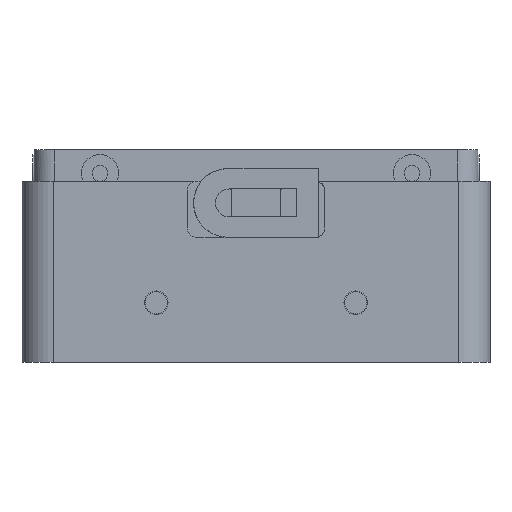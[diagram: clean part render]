
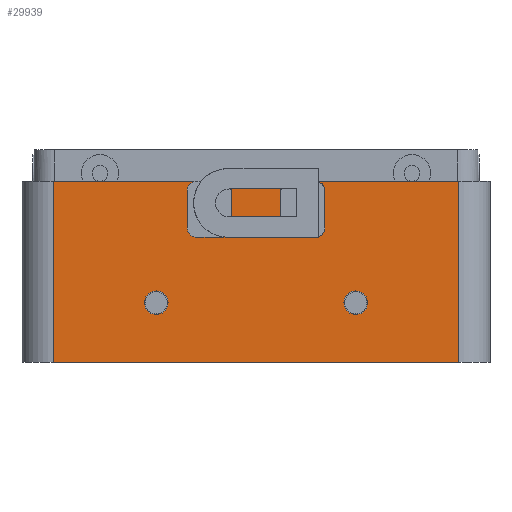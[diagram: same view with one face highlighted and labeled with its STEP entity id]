
A CAD part, left-side view. The second image highlights one B-rep face of the part: STEP entity #29939.
In plain terms, the highlighted planar face has unit normal (-1, 0, 0).
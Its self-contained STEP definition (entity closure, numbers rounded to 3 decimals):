
#27550=CARTESIAN_POINT('Vertex',(-94.,35.8,19.)) ;
#27553=CARTESIAN_POINT('Axis2P3D Location',(-94.,32.,19.)) ;
#27557=CARTESIAN_POINT('Vertex',(-94.,28.2,19.)) ;
#27572=CARTESIAN_POINT('Axis2P3D Location',(-94.,32.,19.)) ;
#27588=CARTESIAN_POINT('Vertex',(-94.,-28.2,19.)) ;
#27591=CARTESIAN_POINT('Axis2P3D Location',(-94.,-32.,19.)) ;
#27595=CARTESIAN_POINT('Vertex',(-94.,-35.8,19.)) ;
#27610=CARTESIAN_POINT('Axis2P3D Location',(-94.,-32.,19.)) ;
#27647=CARTESIAN_POINT('Vertex',(-94.,-65.,0.)) ;
#27650=CARTESIAN_POINT('Line Origine',(-94.,0.,0.)) ;
#27654=CARTESIAN_POINT('Vertex',(-94.,65.,0.)) ;
#27804=CARTESIAN_POINT('Vertex',(-94.,22.,55.)) ;
#27807=CARTESIAN_POINT('Line Origine',(-94.,22.,49.)) ;
#27811=CARTESIAN_POINT('Vertex',(-94.,22.,43.)) ;
#27833=CARTESIAN_POINT('Axis2P3D Location',(-94.,19.,43.)) ;
#27837=CARTESIAN_POINT('Vertex',(-94.,19.,40.)) ;
#27859=CARTESIAN_POINT('Line Origine',(-94.,15.,40.)) ;
#27863=CARTESIAN_POINT('Vertex',(-94.,11.,40.)) ;
#27892=CARTESIAN_POINT('Axis2P3D Location',(-94.,11.,43.)) ;
#27896=CARTESIAN_POINT('Vertex',(-94.,8.,43.)) ;
#27926=CARTESIAN_POINT('Line Origine',(-94.,8.,49.)) ;
#27930=CARTESIAN_POINT('Vertex',(-94.,8.,55.)) ;
#28039=CARTESIAN_POINT('Vertex',(-94.,-8.,55.)) ;
#28042=CARTESIAN_POINT('Line Origine',(-94.,-8.,49.)) ;
#28046=CARTESIAN_POINT('Vertex',(-94.,-8.,43.)) ;
#29395=CARTESIAN_POINT('Vertex',(-94.,19.,58.)) ;
#29398=CARTESIAN_POINT('Axis2P3D Location',(-94.,19.,55.)) ;
#29415=CARTESIAN_POINT('Line Origine',(-94.,65.,29.)) ;
#29419=CARTESIAN_POINT('Vertex',(-94.,65.,58.)) ;
#29728=CARTESIAN_POINT('Line Origine',(-94.,-65.,29.)) ;
#29732=CARTESIAN_POINT('Vertex',(-94.,-65.,58.)) ;
#29840=CARTESIAN_POINT('Axis2P3D Location',(-94.,65.,0.)) ;
#29845=CARTESIAN_POINT('Line Origine',(-94.,0.,58.)) ;
#29849=CARTESIAN_POINT('Vertex',(-94.,11.,58.)) ;
#29851=CARTESIAN_POINT('Vertex',(-94.,-11.,58.)) ;
#29854=CARTESIAN_POINT('Axis2P3D Location',(-94.,11.,55.)) ;
#29859=CARTESIAN_POINT('Line Origine',(-94.,42.,58.)) ;
#29864=CARTESIAN_POINT('Line Origine',(-94.,-42.,58.)) ;
#29868=CARTESIAN_POINT('Vertex',(-94.,-19.,58.)) ;
#29871=CARTESIAN_POINT('Axis2P3D Location',(-94.,-19.,55.)) ;
#29875=CARTESIAN_POINT('Vertex',(-94.,-22.,55.)) ;
#29878=CARTESIAN_POINT('Line Origine',(-94.,-22.,49.)) ;
#29882=CARTESIAN_POINT('Vertex',(-94.,-22.,43.)) ;
#29885=CARTESIAN_POINT('Axis2P3D Location',(-94.,-19.,43.)) ;
#29889=CARTESIAN_POINT('Vertex',(-94.,-19.,40.)) ;
#29892=CARTESIAN_POINT('Line Origine',(-94.,-15.,40.)) ;
#29896=CARTESIAN_POINT('Vertex',(-94.,-11.,40.)) ;
#29899=CARTESIAN_POINT('Axis2P3D Location',(-94.,-11.,43.)) ;
#29904=CARTESIAN_POINT('Axis2P3D Location',(-94.,-11.,55.)) ;
#27652=VECTOR('Line Direction',#27651,1.) ;
#27809=VECTOR('Line Direction',#27808,1.) ;
#27861=VECTOR('Line Direction',#27860,1.) ;
#27928=VECTOR('Line Direction',#27927,1.) ;
#28044=VECTOR('Line Direction',#28043,1.) ;
#29417=VECTOR('Line Direction',#29416,1.) ;
#29730=VECTOR('Line Direction',#29729,1.) ;
#29847=VECTOR('Line Direction',#29846,1.) ;
#29861=VECTOR('Line Direction',#29860,1.) ;
#29866=VECTOR('Line Direction',#29865,1.) ;
#29880=VECTOR('Line Direction',#29879,1.) ;
#29894=VECTOR('Line Direction',#29893,1.) ;
#27554=DIRECTION('Axis2P3D Direction',(1.,0.,0.)) ;
#27573=DIRECTION('Axis2P3D Direction',(1.,0.,0.)) ;
#27592=DIRECTION('Axis2P3D Direction',(1.,0.,0.)) ;
#27611=DIRECTION('Axis2P3D Direction',(1.,0.,0.)) ;
#27651=DIRECTION('Vector Direction',(0.,-1.,0.)) ;
#27808=DIRECTION('Vector Direction',(0.,0.,1.)) ;
#27834=DIRECTION('Axis2P3D Direction',(1.,0.,0.)) ;
#27860=DIRECTION('Vector Direction',(0.,1.,0.)) ;
#27893=DIRECTION('Axis2P3D Direction',(1.,0.,0.)) ;
#27927=DIRECTION('Vector Direction',(0.,0.,-1.)) ;
#28043=DIRECTION('Vector Direction',(0.,0.,1.)) ;
#29399=DIRECTION('Axis2P3D Direction',(1.,0.,0.)) ;
#29416=DIRECTION('Vector Direction',(0.,0.,1.)) ;
#29729=DIRECTION('Vector Direction',(0.,0.,1.)) ;
#29841=DIRECTION('Axis2P3D Direction',(-1.,0.,0.)) ;
#29842=DIRECTION('Axis2P3D XDirection',(0.,-1.,0.)) ;
#29846=DIRECTION('Vector Direction',(0.,-1.,0.)) ;
#29855=DIRECTION('Axis2P3D Direction',(-1.,0.,0.)) ;
#29860=DIRECTION('Vector Direction',(0.,-1.,0.)) ;
#29865=DIRECTION('Vector Direction',(0.,-1.,0.)) ;
#29872=DIRECTION('Axis2P3D Direction',(-1.,0.,0.)) ;
#29879=DIRECTION('Vector Direction',(0.,0.,-1.)) ;
#29886=DIRECTION('Axis2P3D Direction',(-1.,0.,0.)) ;
#29893=DIRECTION('Vector Direction',(0.,1.,0.)) ;
#29900=DIRECTION('Axis2P3D Direction',(-1.,0.,0.)) ;
#29905=DIRECTION('Axis2P3D Direction',(-1.,0.,0.)) ;
#27555=AXIS2_PLACEMENT_3D('Circle Axis2P3D',#27553,#27554,$) ;
#27574=AXIS2_PLACEMENT_3D('Circle Axis2P3D',#27572,#27573,$) ;
#27593=AXIS2_PLACEMENT_3D('Circle Axis2P3D',#27591,#27592,$) ;
#27612=AXIS2_PLACEMENT_3D('Circle Axis2P3D',#27610,#27611,$) ;
#27835=AXIS2_PLACEMENT_3D('Circle Axis2P3D',#27833,#27834,$) ;
#27894=AXIS2_PLACEMENT_3D('Circle Axis2P3D',#27892,#27893,$) ;
#29400=AXIS2_PLACEMENT_3D('Circle Axis2P3D',#29398,#29399,$) ;
#29843=AXIS2_PLACEMENT_3D('Plane Axis2P3D',#29840,#29841,#29842) ;
#29856=AXIS2_PLACEMENT_3D('Circle Axis2P3D',#29854,#29855,$) ;
#29873=AXIS2_PLACEMENT_3D('Circle Axis2P3D',#29871,#29872,$) ;
#29887=AXIS2_PLACEMENT_3D('Circle Axis2P3D',#29885,#29886,$) ;
#29901=AXIS2_PLACEMENT_3D('Circle Axis2P3D',#29899,#29900,$) ;
#29906=AXIS2_PLACEMENT_3D('Circle Axis2P3D',#29904,#29905,$) ;
#27653=LINE('Line',#27650,#27652) ;
#27810=LINE('Line',#27807,#27809) ;
#27862=LINE('Line',#27859,#27861) ;
#27929=LINE('Line',#27926,#27928) ;
#28045=LINE('Line',#28042,#28044) ;
#29418=LINE('Line',#29415,#29417) ;
#29731=LINE('Line',#29728,#29730) ;
#29848=LINE('Line',#29845,#29847) ;
#29862=LINE('Line',#29859,#29861) ;
#29867=LINE('Line',#29864,#29866) ;
#29881=LINE('Line',#29878,#29880) ;
#29895=LINE('Line',#29892,#29894) ;
#27556=CIRCLE('generated circle',#27555,3.8) ;
#27575=CIRCLE('generated circle',#27574,3.8) ;
#27594=CIRCLE('generated circle',#27593,3.8) ;
#27613=CIRCLE('generated circle',#27612,3.8) ;
#27836=CIRCLE('generated circle',#27835,3.) ;
#27895=CIRCLE('generated circle',#27894,3.) ;
#29401=CIRCLE('generated circle',#29400,3.) ;
#29857=CIRCLE('generated circle',#29856,3.) ;
#29874=CIRCLE('generated circle',#29873,3.) ;
#29888=CIRCLE('generated circle',#29887,3.) ;
#29902=CIRCLE('generated circle',#29901,3.) ;
#29907=CIRCLE('generated circle',#29906,3.) ;
#29844=PLANE('',#29843) ;
#29934=FACE_BOUND('',#29931,.T.) ;
#29938=FACE_BOUND('',#29935,.T.) ;
#27559=EDGE_CURVE('',#27558,#27551,#27556,.T.) ;
#27576=EDGE_CURVE('',#27551,#27558,#27575,.T.) ;
#27597=EDGE_CURVE('',#27596,#27589,#27594,.T.) ;
#27614=EDGE_CURVE('',#27589,#27596,#27613,.T.) ;
#27656=EDGE_CURVE('',#27655,#27648,#27653,.T.) ;
#27813=EDGE_CURVE('',#27812,#27805,#27810,.T.) ;
#27839=EDGE_CURVE('',#27838,#27812,#27836,.T.) ;
#27865=EDGE_CURVE('',#27864,#27838,#27862,.T.) ;
#27898=EDGE_CURVE('',#27897,#27864,#27895,.T.) ;
#27932=EDGE_CURVE('',#27931,#27897,#27929,.T.) ;
#28048=EDGE_CURVE('',#28047,#28040,#28045,.T.) ;
#29402=EDGE_CURVE('',#27805,#29396,#29401,.T.) ;
#29421=EDGE_CURVE('',#27655,#29420,#29418,.T.) ;
#29734=EDGE_CURVE('',#27648,#29733,#29731,.T.) ;
#29853=EDGE_CURVE('',#29850,#29852,#29848,.T.) ;
#29858=EDGE_CURVE('',#29850,#27931,#29857,.F.) ;
#29863=EDGE_CURVE('',#29420,#29396,#29862,.T.) ;
#29870=EDGE_CURVE('',#29869,#29733,#29867,.T.) ;
#29877=EDGE_CURVE('',#29869,#29876,#29874,.F.) ;
#29884=EDGE_CURVE('',#29876,#29883,#29881,.T.) ;
#29891=EDGE_CURVE('',#29883,#29890,#29888,.F.) ;
#29898=EDGE_CURVE('',#29890,#29897,#29895,.T.) ;
#29903=EDGE_CURVE('',#29897,#28047,#29902,.F.) ;
#29908=EDGE_CURVE('',#28040,#29852,#29907,.F.) ;
#29910=ORIENTED_EDGE('',*,*,#29853,.F.) ;
#29911=ORIENTED_EDGE('',*,*,#29858,.T.) ;
#29912=ORIENTED_EDGE('',*,*,#27932,.T.) ;
#29913=ORIENTED_EDGE('',*,*,#27898,.T.) ;
#29914=ORIENTED_EDGE('',*,*,#27865,.T.) ;
#29915=ORIENTED_EDGE('',*,*,#27839,.T.) ;
#29916=ORIENTED_EDGE('',*,*,#27813,.T.) ;
#29917=ORIENTED_EDGE('',*,*,#29402,.T.) ;
#29918=ORIENTED_EDGE('',*,*,#29863,.F.) ;
#29919=ORIENTED_EDGE('',*,*,#29421,.F.) ;
#29920=ORIENTED_EDGE('',*,*,#27656,.T.) ;
#29921=ORIENTED_EDGE('',*,*,#29734,.T.) ;
#29922=ORIENTED_EDGE('',*,*,#29870,.F.) ;
#29923=ORIENTED_EDGE('',*,*,#29877,.T.) ;
#29924=ORIENTED_EDGE('',*,*,#29884,.T.) ;
#29925=ORIENTED_EDGE('',*,*,#29891,.T.) ;
#29926=ORIENTED_EDGE('',*,*,#29898,.T.) ;
#29927=ORIENTED_EDGE('',*,*,#29903,.T.) ;
#29928=ORIENTED_EDGE('',*,*,#28048,.T.) ;
#29929=ORIENTED_EDGE('',*,*,#29908,.T.) ;
#29932=ORIENTED_EDGE('',*,*,#27614,.T.) ;
#29933=ORIENTED_EDGE('',*,*,#27597,.T.) ;
#29936=ORIENTED_EDGE('',*,*,#27576,.T.) ;
#29937=ORIENTED_EDGE('',*,*,#27559,.T.) ;
#29909=EDGE_LOOP('',(#29910,#29911,#29912,#29913,#29914,#29915,#29916,#29917,#29918,#29919,#29920,#29921,#29922,#29923,#29924,#29925,#29926,#29927,#29928,#29929)) ;
#29931=EDGE_LOOP('',(#29932,#29933)) ;
#29935=EDGE_LOOP('',(#29936,#29937)) ;
#27551=VERTEX_POINT('',#27550) ;
#27558=VERTEX_POINT('',#27557) ;
#27589=VERTEX_POINT('',#27588) ;
#27596=VERTEX_POINT('',#27595) ;
#27648=VERTEX_POINT('',#27647) ;
#27655=VERTEX_POINT('',#27654) ;
#27805=VERTEX_POINT('',#27804) ;
#27812=VERTEX_POINT('',#27811) ;
#27838=VERTEX_POINT('',#27837) ;
#27864=VERTEX_POINT('',#27863) ;
#27897=VERTEX_POINT('',#27896) ;
#27931=VERTEX_POINT('',#27930) ;
#28040=VERTEX_POINT('',#28039) ;
#28047=VERTEX_POINT('',#28046) ;
#29396=VERTEX_POINT('',#29395) ;
#29420=VERTEX_POINT('',#29419) ;
#29733=VERTEX_POINT('',#29732) ;
#29850=VERTEX_POINT('',#29849) ;
#29852=VERTEX_POINT('',#29851) ;
#29869=VERTEX_POINT('',#29868) ;
#29876=VERTEX_POINT('',#29875) ;
#29883=VERTEX_POINT('',#29882) ;
#29890=VERTEX_POINT('',#29889) ;
#29897=VERTEX_POINT('',#29896) ;
#29939=ADVANCED_FACE('MAIN_HOUSING',(#29930,#29934,#29938),#29844,.T.) ;
#29930=FACE_OUTER_BOUND('',#29909,.T.) ;
